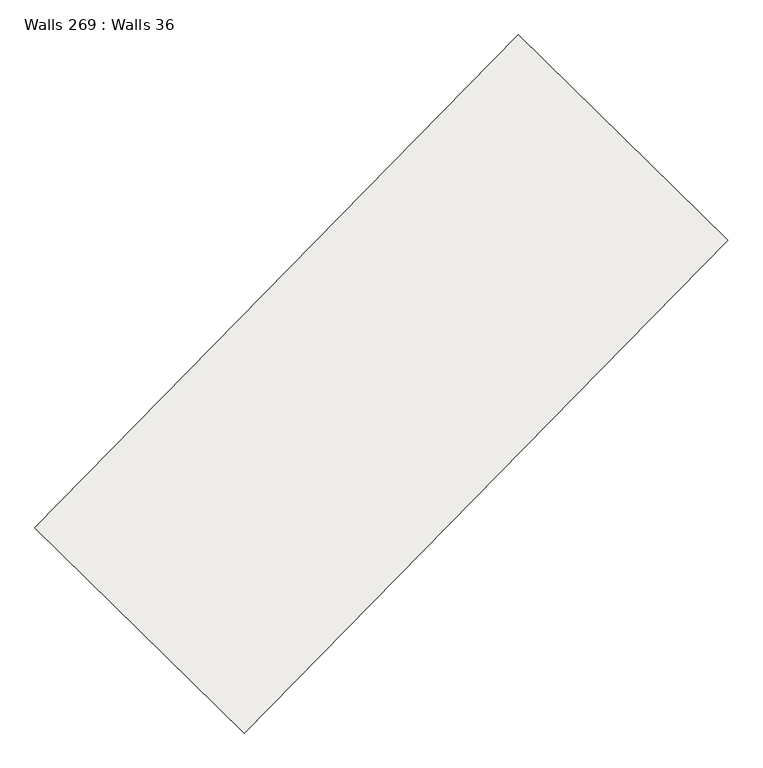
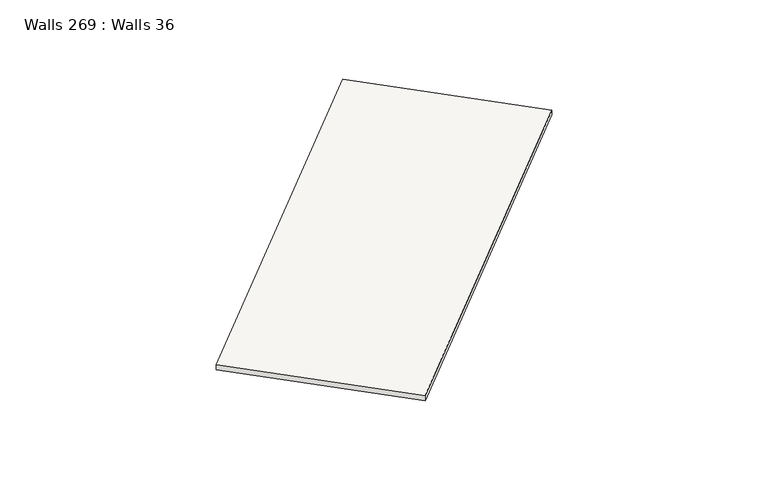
"""IFC4 building model written with IfcOpenShell, lengths in millimetres: slab geometry, Walls 269 : Walls 36."""

import ifcopenshell
import ifcopenshell.guid

model = None  # the IFC model being written
_history = None  # IfcOwnerHistory: only IFC2X3 demands one
_inside = {}  # id of a spatial element -> (the spatial element, [elements in it])
_under = {}  # id of a project, library or spatial element -> (it, [spatial elements below it])
_declared = {}  # id of a project -> (the project, [libraries it declares])
_typed = {}  # id of a type object -> (the type object, [elements of that type])
_made_of = {}  # id of a material, layer set ... -> (it, [elements and type objects made of it])


def new_model(schema):
    """Start an empty IFC model of exactly this schema.

    Asked for "IFC4X3", IfcOpenShell would pick the latest addendum, in which some entities
    have other attributes; the version numbers below select the first issue.
    IFC2X3 requires an IfcOwnerHistory on every rooted entity: one is made here for all.
    """
    global model, _history
    if schema == "IFC4X3":
        model = ifcopenshell.file(schema_version=(4, 3, 0, 0))
    else:
        model = ifcopenshell.file(schema=schema)
    _inside.clear()
    _under.clear()
    _declared.clear()
    _typed.clear()
    _made_of.clear()
    _history = None
    if model.schema == "IFC2X3":
        org = make("IfcOrganization", Name="unknown")
        user = make(
            "IfcPersonAndOrganization",
            ThePerson=make("IfcPerson", FamilyName="unknown"),
            TheOrganization=org,
        )
        app = make(
            "IfcApplication",
            ApplicationDeveloper=org,
            Version="unknown",
            ApplicationFullName="unknown",
            ApplicationIdentifier="unknown",
        )
        _history = make(
            "IfcOwnerHistory",
            OwningUser=user,
            OwningApplication=app,
            ChangeAction="ADDED",
            CreationDate=0,
        )
    return model


def make(cls, **values):
    """One entity of the class cls with the attributes given. An attribute that is None is left unset."""
    return model.create_entity(
        cls, **{name: value for name, value in values.items() if value is not None}
    )


def rooted(cls, **values):
    """An entity with a GlobalId (a new one), such as an element, a storey or a relation."""
    return make(cls, GlobalId=ifcopenshell.guid.new(), OwnerHistory=_history, **values)


def si_unit(unit_type, name, prefix=None):
    """IfcSIUnit, for example si_unit("LENGTHUNIT", "METRE", prefix="MILLI")."""
    return make("IfcSIUnit", UnitType=unit_type, Prefix=prefix, Name=name)


def assignment(units):
    """IfcUnitAssignment: the units of a project."""
    return None if units is None else make("IfcUnitAssignment", Units=units)


def point(xyz):
    """IfcCartesianPoint."""
    return None if xyz is None else make("IfcCartesianPoint", Coordinates=xyz)


def direction(xyz):
    """IfcDirection."""
    return None if xyz is None else make("IfcDirection", DirectionRatios=xyz)


def frame(location, z_axis=None, x_axis=None):
    """IfcAxis2Placement3D, a coordinate frame: its origin and axes. An axis left out is left unset."""
    return make(
        "IfcAxis2Placement3D",
        Location=point(location),
        Axis=direction(z_axis),
        RefDirection=direction(x_axis),
    )


def origin():
    """The frame at (0, 0, 0) with its axes left unset."""
    return frame((0.0, 0.0, 0.0))


def place(relative_to, where):
    """IfcLocalPlacement: puts the frame where relative to a parent placement (None: the world)."""
    return make(
        "IfcLocalPlacement", PlacementRelTo=relative_to, RelativePlacement=where
    )


def context(
    kind, dimensions, precision=None, world=None, true_north=None, identifier=None
):
    """IfcGeometricRepresentationContext, for example the 3D "Model" context."""
    return make(
        "IfcGeometricRepresentationContext",
        ContextIdentifier=identifier,
        ContextType=kind,
        CoordinateSpaceDimension=dimensions,
        Precision=precision,
        WorldCoordinateSystem=world,
        TrueNorth=true_north,
    )


def project(units=None, contexts=None):
    """IfcProject with its units and contexts."""
    return rooted(
        "IfcProject",
        Name="project",
        RepresentationContexts=contexts,
        UnitsInContext=assignment(units),
    )


def spatial(cls, under=None, at=None, **own):
    """A site, building, storey or space (cls), placed at a placement, below another one or the project."""
    s = rooted(cls, ObjectPlacement=at, **own)
    if under is not None:
        _under.setdefault(under.id(), (under, []))[1].append(s)
    return s


def polyline(points):
    """IfcPolyline through the points."""
    return make("IfcPolyline", Points=[point(p) for p in points])


def outline(outer, holes=None, kind="AREA"):
    """IfcArbitraryClosedProfileDef: a profile drawn as a closed curve; with holes, ...WithVoids."""
    if holes is None:
        return make("IfcArbitraryClosedProfileDef", ProfileType=kind, OuterCurve=outer)
    return make(
        "IfcArbitraryProfileDefWithVoids",
        ProfileType=kind,
        OuterCurve=outer,
        InnerCurves=holes,
    )


def extrude(swept, where, along, depth):
    """IfcExtrudedAreaSolid: the profile swept, set in the frame where, extruded along a direction by depth."""
    return make(
        "IfcExtrudedAreaSolid",
        SweptArea=swept,
        Position=where,
        ExtrudedDirection=direction(along),
        Depth=depth,
    )


def shape(context_of_items, identifier, shape_type, items):
    """IfcShapeRepresentation: the items that make up one representation, for example the "Body"."""
    return make(
        "IfcShapeRepresentation",
        ContextOfItems=context_of_items,
        RepresentationIdentifier=identifier,
        RepresentationType=shape_type,
        Items=items,
    )


def source(mapping_origin, context_of_items, identifier, shape_type, items):
    """IfcRepresentationMap: a shape defined once, which mapped items show again and again."""
    return make(
        "IfcRepresentationMap",
        MappingOrigin=mapping_origin,
        MappedRepresentation=shape(context_of_items, identifier, shape_type, items),
    )


def transform(
    local_origin,
    x_axis=None,
    y_axis=None,
    z_axis=None,
    scale=None,
    scale2=None,
    scale3=None,
    uniform=True,
):
    """IfcCartesianTransformationOperator3D, or its non-uniform kind. x_axis, y_axis, z_axis: its Axis1, 2, 3."""
    if uniform:
        return make(
            "IfcCartesianTransformationOperator3D",
            Axis1=direction(x_axis),
            Axis2=direction(y_axis),
            LocalOrigin=point(local_origin),
            Scale=scale,
            Axis3=direction(z_axis),
        )
    return make(
        "IfcCartesianTransformationOperator3DnonUniform",
        Axis1=direction(x_axis),
        Axis2=direction(y_axis),
        LocalOrigin=point(local_origin),
        Scale=scale,
        Axis3=direction(z_axis),
        Scale2=scale2,
        Scale3=scale3,
    )


def mapped(mapping_source, mapping_target):
    """IfcMappedItem: shows the shape of a source again, moved by a transform."""
    return make(
        "IfcMappedItem", MappingSource=mapping_source, MappingTarget=mapping_target
    )


def made_of(thing, what):
    """Note that an element or type object is made of a material, layer set ...; save() writes the relation."""
    if what is not None:
        _made_of.setdefault(what.id(), (what, []))[1].append(thing)
    return thing


def element(
    cls,
    number,
    at=None,
    inside=None,
    cuts=None,
    type_object=None,
    material=None,
    context=None,
    identifier="Body",
    shape_type=None,
    held_by="IfcProductDefinitionShape",
    body=None,
    shapes=None,
    **own,
):
    """One element of the class cls, such as IfcWall. Its Tag is "e" and its number.

    at: its placement. inside: the storey or other place that contains it. cuts: it is an
    opening in that element (IfcRelVoidsElement). A single representation is given by context,
    identifier, shape_type and body (its items); several are given by shapes. held_by: the class
    of the entity that holds the representations. save() writes the other relations.
    """
    e = rooted(cls, Tag="e%d" % number, ObjectPlacement=at, **own)
    if body is not None:
        shapes = [shape(context, identifier, shape_type, body)]
    if shapes is not None:
        e.Representation = make(held_by, Representations=shapes)
    if inside is not None:
        _inside.setdefault(inside.id(), (inside, []))[1].append(e)
    if cuts is not None:
        rooted(
            "IfcRelVoidsElement", RelatingBuildingElement=cuts, RelatedOpeningElement=e
        )
    if type_object is not None:
        _typed.setdefault(type_object.id(), (type_object, []))[1].append(e)
    return made_of(e, material)


def aggregate(whole, parts):
    """IfcRelAggregates: a whole, such as a stair, and the parts it consists of."""
    return rooted("IfcRelAggregates", RelatingObject=whole, RelatedObjects=parts)


def save(model, path):
    """Write the relations noted so far, then the file.

    IfcRelAggregates (storeys below a building ...), IfcRelContainedInSpatialStructure (elements
    in a storey), IfcRelDefinesByType, IfcRelAssociatesMaterial and IfcRelDeclares: one each for
    every whole, place, type object, material and project.
    """
    for whole, parts in _under.values():
        aggregate(whole, parts)
    for where, things in _inside.values():
        rooted(
            "IfcRelContainedInSpatialStructure",
            RelatedElements=things,
            RelatingStructure=where,
        )
    for kind, things in _typed.values():
        rooted("IfcRelDefinesByType", RelatedObjects=things, RelatingType=kind)
    for what, things in _made_of.values():
        rooted("IfcRelAssociatesMaterial", RelatedObjects=things, RelatingMaterial=what)
    for by, libraries in _declared.values():
        rooted("IfcRelDeclares", RelatingContext=by, RelatedDefinitions=libraries)
    model.write(path)


def walls_269_walls_36_7b1c7fb9(model_context):
    return source(origin(), model_context, "Body", "SweptSolid", [
        extrude(outline(polyline([(-50.0, 0.0), (50.0, 0.0), (-30.0, -8700.0000009), (-130.0, -8700.0000009), (-50.0, 0.0)])), frame((-164477.5290036, -326950.8393405, 635650.0), z_axis=(-0.7137361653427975, 0.7004146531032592, 0.0), x_axis=(0.0, 0.0, 1.0)), (0.0, 0.0, 1.0), 3699.999995),
    ])


if __name__ == "__main__":
    model = new_model("IFC4")
    model_context = context("Model", 3, world=origin())
    ifc_project = project(units=[si_unit("LENGTHUNIT", "METRE", prefix="MILLI")], contexts=[model_context])
    site = spatial("IfcSite", under=ifc_project)
    building = spatial("IfcBuilding", under=site)
    placement = place(None, origin())
    walls_269_walls_36_shape = walls_269_walls_36_7b1c7fb9(model_context)
    element("IfcSlab", 1, ObjectType="Walls 269 : Walls 36", at=placement, inside=building, context=model_context, shape_type="MappedRepresentation", body=[
        mapped(walls_269_walls_36_shape, transform((0.0, 0.0, 0.0), x_axis=(1.0, 0.0, 0.0), y_axis=(0.0, 1.0, 0.0), z_axis=(0.0, 0.0, 1.0))),
    ])
    save(model, "model.ifc")
